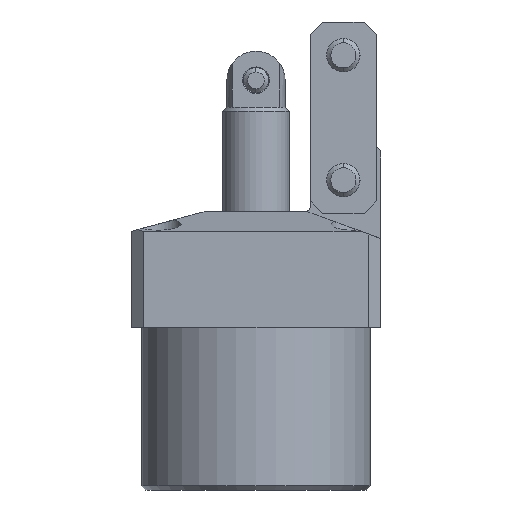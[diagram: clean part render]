
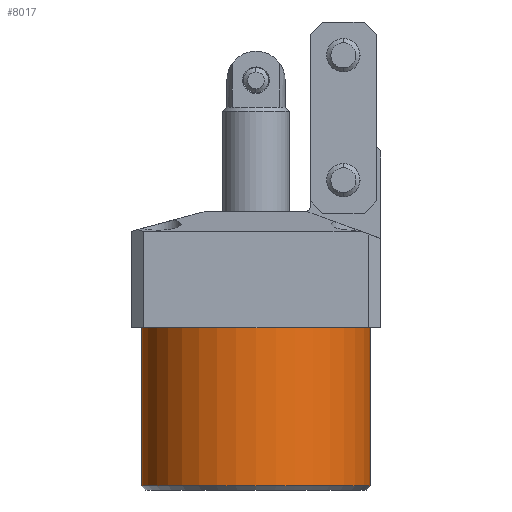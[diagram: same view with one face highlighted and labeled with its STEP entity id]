
A CAD part, front view. The second image highlights one B-rep face of the part: STEP entity #8017.
In plain terms, the highlighted cylindrical face has radius 27.5 mm (diameter 55 mm), a partial arc.
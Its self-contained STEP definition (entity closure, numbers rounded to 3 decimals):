
#488 = EDGE_CURVE ( 'NONE', #16370, #6967, #15298, .T. ) ;
#632 = CARTESIAN_POINT ( 'NONE',  ( 27.5, 0., -39. ) ) ;
#1163 = ORIENTED_EDGE ( 'NONE', *, *, #488, .T. ) ;
#1595 = EDGE_CURVE ( 'NONE', #20086, #5519, #7657, .T. ) ;
#2738 = DIRECTION ( 'NONE',  ( 1., 0., 0. ) ) ;
#2759 = CARTESIAN_POINT ( 'NONE',  ( -27.5, 0., 0. ) ) ;
#3726 = CIRCLE ( 'NONE', #20324, 27.5 ) ;
#3821 = FACE_OUTER_BOUND ( 'NONE', #18150, .T. ) ;
#5484 = ORIENTED_EDGE ( 'NONE', *, *, #1595, .F. ) ;
#5519 = VERTEX_POINT ( 'NONE', #2759 ) ;
#6138 = CARTESIAN_POINT ( 'NONE',  ( 0., 0., -38. ) ) ;
#6762 = AXIS2_PLACEMENT_3D ( 'NONE', #19323, #9299, #21022 ) ;
#6967 = VERTEX_POINT ( 'NONE', #8390 ) ;
#7657 = LINE ( 'NONE', #13681, #12114 ) ;
#7826 = DIRECTION ( 'NONE',  ( -1., 0., 0. ) ) ;
#8017 = ADVANCED_FACE ( 'NONE', ( #3821 ), #18236, .T. ) ;
#8390 = CARTESIAN_POINT ( 'NONE',  ( 27.5, 0., 0. ) ) ;
#8511 = ORIENTED_EDGE ( 'NONE', *, *, #13380, .T. ) ;
#9205 = ORIENTED_EDGE ( 'NONE', *, *, #18934, .T. ) ;
#9299 = DIRECTION ( 'NONE',  ( 0., 0., -1. ) ) ;
#10828 = VECTOR ( 'NONE', #14868, 1000. ) ;
#12114 = VECTOR ( 'NONE', #17027, 1000. ) ;
#13380 = EDGE_CURVE ( 'NONE', #20086, #16370, #3726, .T. ) ;
#13681 = CARTESIAN_POINT ( 'NONE',  ( -27.5, 0., -39. ) ) ;
#14868 = DIRECTION ( 'NONE',  ( 0., 0., 1. ) ) ;
#15298 = LINE ( 'NONE', #632, #10828 ) ;
#16370 = VERTEX_POINT ( 'NONE', #18282 ) ;
#17027 = DIRECTION ( 'NONE',  ( 0., 0., 1. ) ) ;
#17144 = CARTESIAN_POINT ( 'NONE',  ( -27.5, 0., -38. ) ) ;
#17322 = AXIS2_PLACEMENT_3D ( 'NONE', #21191, #19489, #2738 ) ;
#17846 = DIRECTION ( 'NONE',  ( 0., 0., 1. ) ) ;
#18150 = EDGE_LOOP ( 'NONE', ( #5484, #8511, #1163, #9205 ) ) ;
#18236 = CYLINDRICAL_SURFACE ( 'NONE', #17322, 27.5 ) ;
#18282 = CARTESIAN_POINT ( 'NONE',  ( 27.5, 0., -38. ) ) ;
#18934 = EDGE_CURVE ( 'NONE', #6967, #5519, #20087, .T. ) ;
#19323 = CARTESIAN_POINT ( 'NONE',  ( 0., 0., 0. ) ) ;
#19489 = DIRECTION ( 'NONE',  ( 0., 0., 1. ) ) ;
#20086 = VERTEX_POINT ( 'NONE', #17144 ) ;
#20087 = CIRCLE ( 'NONE', #6762, 27.5 ) ;
#20324 = AXIS2_PLACEMENT_3D ( 'NONE', #6138, #17846, #7826 ) ;
#21022 = DIRECTION ( 'NONE',  ( 1., 0., 0. ) ) ;
#21191 = CARTESIAN_POINT ( 'NONE',  ( 0., 0., -39. ) ) ;
